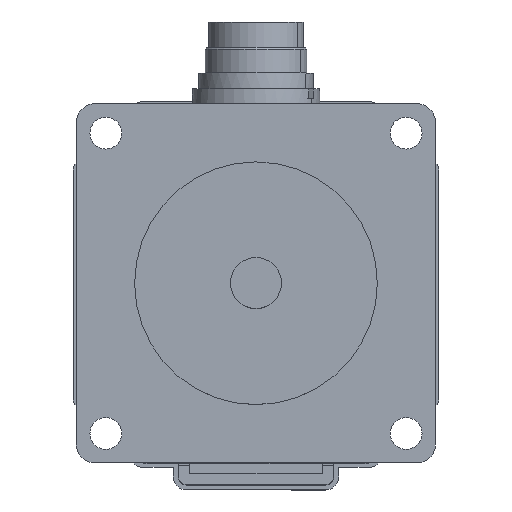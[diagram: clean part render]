
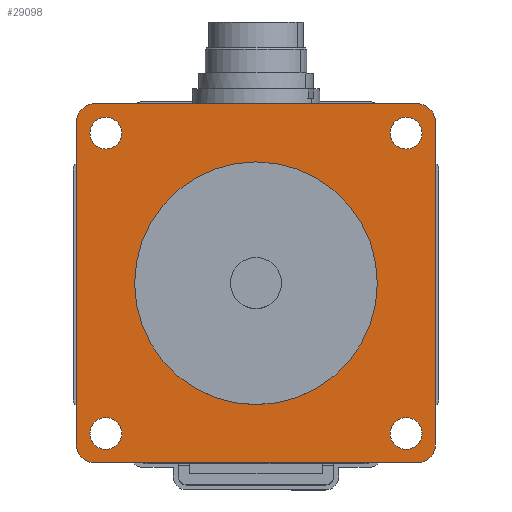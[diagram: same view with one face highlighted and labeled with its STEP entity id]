
A CAD part, top view. The second image highlights one B-rep face of the part: STEP entity #29098.
In plain terms, the highlighted planar face has unit normal (0, 0, 1).
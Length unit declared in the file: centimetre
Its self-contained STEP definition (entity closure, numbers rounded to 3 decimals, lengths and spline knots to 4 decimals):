
#695=PLANE('',#31419);
#2352=VECTOR('',#37370,1.);
#2353=VECTOR('',#37373,1.);
#2354=VECTOR('',#37376,1.);
#2355=VECTOR('',#37379,1.);
#4075=LINE('',#44672,#2352);
#4076=LINE('',#44677,#2353);
#4077=LINE('',#44681,#2354);
#4078=LINE('',#44685,#2355);
#7186=VERTEX_POINT('',#44673);
#7187=VERTEX_POINT('',#44674);
#7188=VERTEX_POINT('',#44676);
#7189=VERTEX_POINT('',#44678);
#7190=VERTEX_POINT('',#44680);
#7191=VERTEX_POINT('',#44682);
#7192=VERTEX_POINT('',#44684);
#7193=VERTEX_POINT('',#44686);
#7194=VERTEX_POINT('',#44689);
#7195=VERTEX_POINT('',#44691);
#7196=VERTEX_POINT('',#44693);
#7197=VERTEX_POINT('',#44695);
#7198=VERTEX_POINT('',#44697);
#8911=CIRCLE('',#31420,0.3);
#8912=CIRCLE('',#31421,0.3);
#8913=CIRCLE('',#31422,0.3);
#8914=CIRCLE('',#31423,0.3);
#8915=CIRCLE('',#31424,0.25);
#8916=CIRCLE('',#31425,0.25);
#8917=CIRCLE('',#31426,0.25);
#8918=CIRCLE('',#31427,0.25);
#8919=CIRCLE('',#31428,1.905);
#13457=EDGE_CURVE('',#7186,#7187,#4075,.T.);
#13458=EDGE_CURVE('',#7187,#7188,#8911,.T.);
#13459=EDGE_CURVE('',#7188,#7189,#4076,.T.);
#13460=EDGE_CURVE('',#7189,#7190,#8912,.T.);
#13461=EDGE_CURVE('',#7190,#7191,#4077,.T.);
#13462=EDGE_CURVE('',#7191,#7192,#8913,.T.);
#13463=EDGE_CURVE('',#7192,#7193,#4078,.T.);
#13464=EDGE_CURVE('',#7193,#7186,#8914,.T.);
#13465=EDGE_CURVE('',#7194,#7194,#8915,.T.);
#13466=EDGE_CURVE('',#7195,#7195,#8916,.T.);
#13467=EDGE_CURVE('',#7196,#7196,#8917,.T.);
#13468=EDGE_CURVE('',#7197,#7197,#8918,.T.);
#13469=EDGE_CURVE('',#7198,#7198,#8919,.T.);
#22555=ORIENTED_EDGE('',*,*,#13457,.T.);
#22556=ORIENTED_EDGE('',*,*,#13458,.T.);
#22557=ORIENTED_EDGE('',*,*,#13459,.T.);
#22558=ORIENTED_EDGE('',*,*,#13460,.T.);
#22559=ORIENTED_EDGE('',*,*,#13461,.T.);
#22560=ORIENTED_EDGE('',*,*,#13462,.T.);
#22561=ORIENTED_EDGE('',*,*,#13463,.T.);
#22562=ORIENTED_EDGE('',*,*,#13464,.T.);
#22563=ORIENTED_EDGE('',*,*,#13465,.F.);
#22564=ORIENTED_EDGE('',*,*,#13466,.F.);
#22565=ORIENTED_EDGE('',*,*,#13467,.F.);
#22566=ORIENTED_EDGE('',*,*,#13468,.F.);
#22567=ORIENTED_EDGE('',*,*,#13469,.F.);
#25033=EDGE_LOOP('',(#22555,#22556,#22557,#22558,#22559,#22560,#22561,#22562));
#25034=EDGE_LOOP('',(#22563));
#25035=EDGE_LOOP('',(#22564));
#25036=EDGE_LOOP('',(#22565));
#25037=EDGE_LOOP('',(#22566));
#25038=EDGE_LOOP('',(#22567));
#27210=FACE_BOUND('',#25033,.T.);
#27211=FACE_BOUND('',#25034,.T.);
#27212=FACE_BOUND('',#25035,.T.);
#27213=FACE_BOUND('',#25036,.T.);
#27214=FACE_BOUND('',#25037,.T.);
#27215=FACE_BOUND('',#25038,.T.);
#29098=ADVANCED_FACE('',(#27210,#27211,#27212,#27213,#27214,#27215),#695,
 .T.);
#31419=AXIS2_PLACEMENT_3D('',#44671,#37369,$);
#31420=AXIS2_PLACEMENT_3D('',#44675,#37371,#37372);
#31421=AXIS2_PLACEMENT_3D('',#44679,#37374,#37375);
#31422=AXIS2_PLACEMENT_3D('',#44683,#37377,#37378);
#31423=AXIS2_PLACEMENT_3D('',#44687,#37380,#37381);
#31424=AXIS2_PLACEMENT_3D('',#44688,#37382,#37383);
#31425=AXIS2_PLACEMENT_3D('',#44690,#37384,#37385);
#31426=AXIS2_PLACEMENT_3D('',#44692,#37386,#37387);
#31427=AXIS2_PLACEMENT_3D('',#44694,#37388,#37389);
#31428=AXIS2_PLACEMENT_3D('',#44696,#37390,#37391);
#37369=DIRECTION('',(0.,0.,1.));
#37370=DIRECTION('',(0.,-1.,0.));
#37371=DIRECTION('',(0.,0.,1.));
#37372=DIRECTION('',(0.3,0.,0.));
#37373=DIRECTION('',(1.,0.,0.));
#37374=DIRECTION('',(0.,0.,1.));
#37375=DIRECTION('',(0.3,0.,0.));
#37376=DIRECTION('',(0.,1.,0.));
#37377=DIRECTION('',(0.,0.,1.));
#37378=DIRECTION('',(0.3,0.,0.));
#37379=DIRECTION('',(-1.,0.,0.));
#37380=DIRECTION('',(0.,0.,1.));
#37381=DIRECTION('',(0.3,0.,0.));
#37382=DIRECTION('',(0.,0.,1.));
#37383=DIRECTION('',(0.25,0.,0.));
#37384=DIRECTION('',(0.,0.,1.));
#37385=DIRECTION('',(0.25,0.,0.));
#37386=DIRECTION('',(0.,0.,1.));
#37387=DIRECTION('',(0.25,0.,0.));
#37388=DIRECTION('',(0.,0.,1.));
#37389=DIRECTION('',(0.25,0.,0.));
#37390=DIRECTION('',(0.,0.,1.));
#37391=DIRECTION('',(1.905,0.,0.));
#44671=CARTESIAN_POINT('',(0.,0.,0.));
#44672=CARTESIAN_POINT('',(-2.82,2.52,0.));
#44673=CARTESIAN_POINT('',(-2.82,2.52,0.));
#44674=CARTESIAN_POINT('',(-2.82,-2.52,0.));
#44675=CARTESIAN_POINT('',(-2.52,-2.52,0.));
#44676=CARTESIAN_POINT('',(-2.52,-2.82,0.));
#44677=CARTESIAN_POINT('',(-2.52,-2.82,0.));
#44678=CARTESIAN_POINT('',(2.52,-2.82,0.));
#44679=CARTESIAN_POINT('',(2.52,-2.52,0.));
#44680=CARTESIAN_POINT('',(2.82,-2.52,0.));
#44681=CARTESIAN_POINT('',(2.82,-2.52,0.));
#44682=CARTESIAN_POINT('',(2.82,2.52,0.));
#44683=CARTESIAN_POINT('',(2.52,2.52,0.));
#44684=CARTESIAN_POINT('',(2.52,2.82,0.));
#44685=CARTESIAN_POINT('',(2.52,2.82,0.));
#44686=CARTESIAN_POINT('',(-2.52,2.82,0.));
#44687=CARTESIAN_POINT('',(-2.52,2.52,0.));
#44688=CARTESIAN_POINT('',(2.357,-2.357,0.));
#44689=CARTESIAN_POINT('',(2.607,-2.357,0.));
#44690=CARTESIAN_POINT('',(2.357,2.357,0.));
#44691=CARTESIAN_POINT('',(2.607,2.357,0.));
#44692=CARTESIAN_POINT('',(-2.357,2.357,0.));
#44693=CARTESIAN_POINT('',(-2.107,2.357,0.));
#44694=CARTESIAN_POINT('',(-2.357,-2.357,0.));
#44695=CARTESIAN_POINT('',(-2.107,-2.357,0.));
#44696=CARTESIAN_POINT('',(0.,0.,0.));
#44697=CARTESIAN_POINT('',(1.905,0.,0.));
